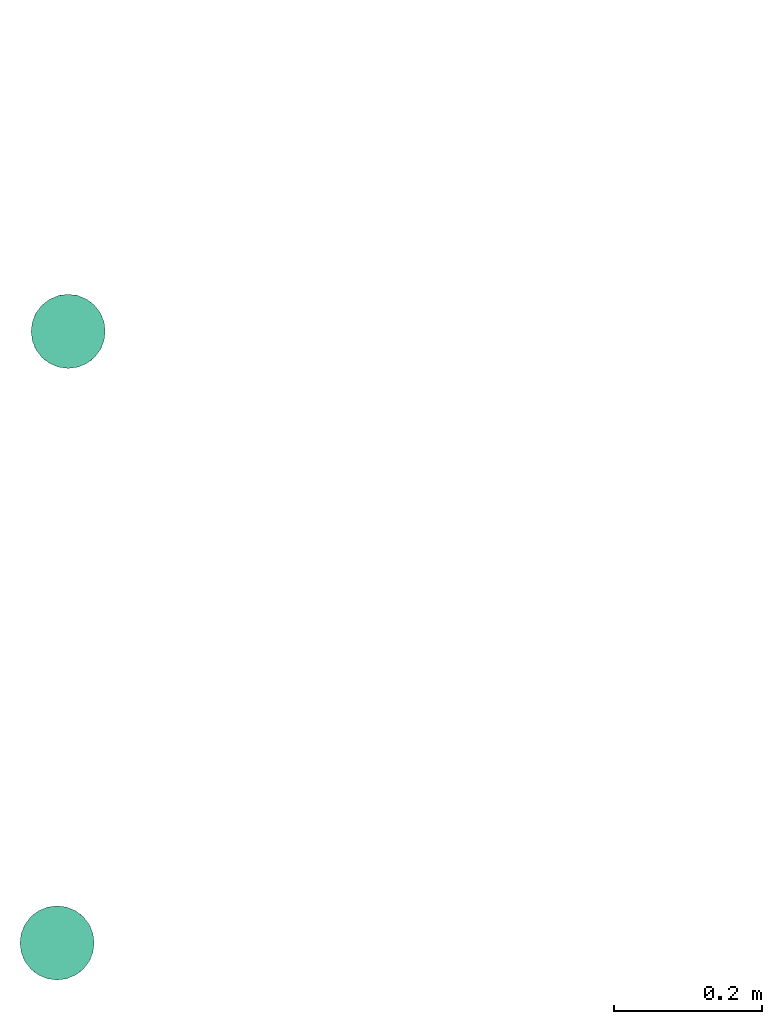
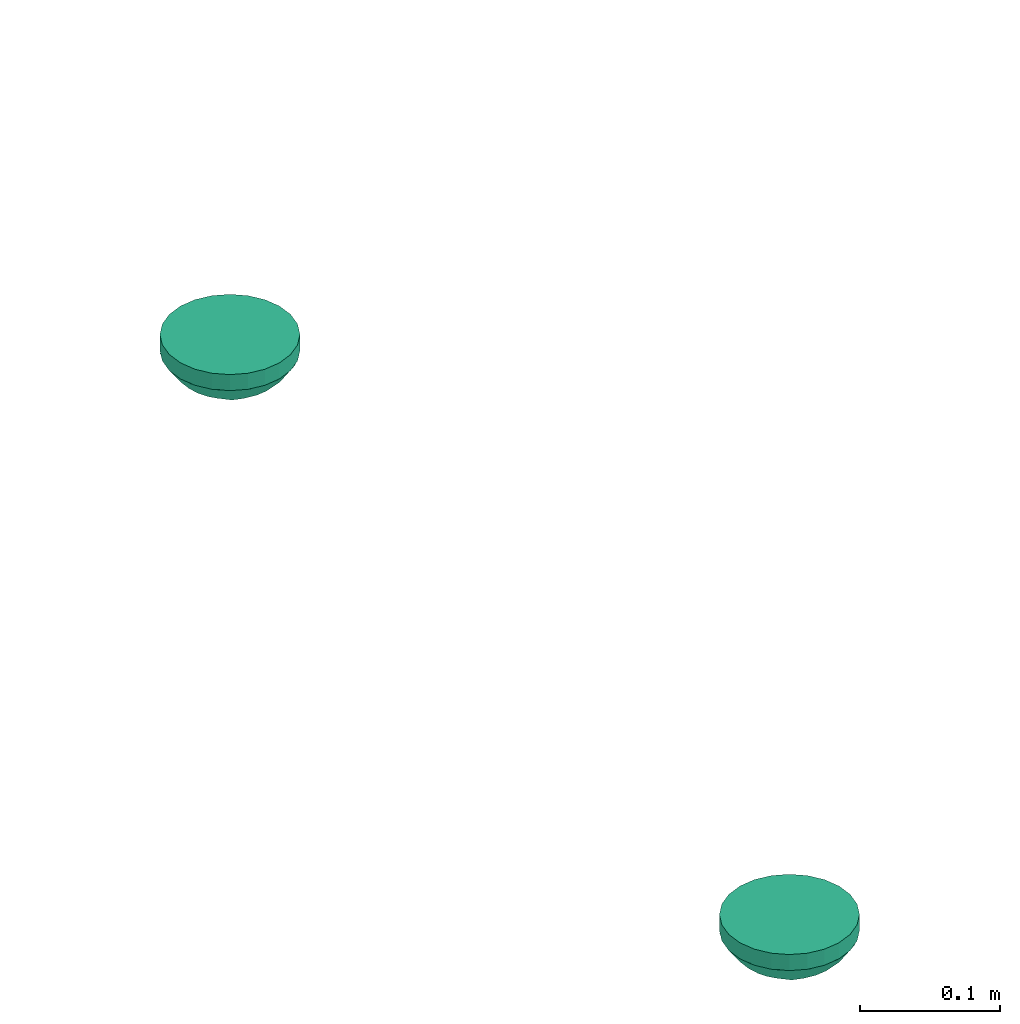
# One storey, part 1 of 7: 2 distribution control elements.
"""IFC2X3 building model written with IfcOpenShell, lengths in millimetres."""

from ifc_helpers import new_model, entity, si_unit, converted_unit, derived_unit, direction, frame, origin_with_axes, place, context, subcontext, project, spatial, open_shell, surface_model, source, transform, mapped, type_object, element, save


model = new_model("IFC2X3")

# Units and contexts
model_context = context("Model", 3, precision=0.01, world=frame((0.0, 4.29681676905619e-09, 0.0)), true_north=direction((4.01073788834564e-13, 1.0)))
plan_context = context("Plan", 3, precision=0.01, world=frame((0.0, 4.29681676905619e-09, 0.0)), true_north=direction((4.01073788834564e-13, 1.0)))
body_context = subcontext(model_context, "Body", "Model", "MODEL_VIEW")
ifc_project = project(units=[converted_unit("PLANEANGLEUNIT", "DEGREE", entity("IfcPositiveLengthMeasure", 0.0174532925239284), si_unit("PLANEANGLEUNIT", "RADIAN"), dimensions=[0, 0, 0, 0, 0, 0, 0]), si_unit("AREAUNIT", "SQUARE_METRE"), si_unit("LENGTHUNIT", "METRE", prefix="MILLI"), si_unit("MASSUNIT", "GRAM", prefix="KILO"), si_unit("POWERUNIT", "WATT"), si_unit("PRESSUREUNIT", "PASCAL"), si_unit("FORCEUNIT", "NEWTON", prefix="KILO"), si_unit("ELECTRICVOLTAGEUNIT", "VOLT"), si_unit("ELECTRICCURRENTUNIT", "AMPERE"), si_unit("THERMODYNAMICTEMPERATUREUNIT", "DEGREE_CELSIUS"), si_unit("TIMEUNIT", "SECOND"), si_unit("VOLUMEUNIT", "CUBIC_METRE"), derived_unit("LINEARVELOCITYUNIT", [(si_unit("LENGTHUNIT", "METRE"), 1), (si_unit("TIMEUNIT", "SECOND"), -1)]), derived_unit("VOLUMETRICFLOWRATEUNIT", [(si_unit("VOLUMEUNIT", "CUBIC_METRE"), 1), (si_unit("TIMEUNIT", "SECOND"), -1)]), derived_unit("THERMALTRANSMITTANCEUNIT", [(si_unit("POWERUNIT", "WATT"), 1), (si_unit("THERMODYNAMICTEMPERATUREUNIT", "KELVIN"), -1), (si_unit("AREAUNIT", "SQUARE_METRE"), -1)]), derived_unit("SOUNDPRESSUREUNIT", [(si_unit("PRESSUREUNIT", "PASCAL"), 1)])], contexts=[model_context, plan_context])

# Site, building, storey
site_placement = place(None, frame((0.0, -4.29681676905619e-09, 0.0), z_axis=(0.0, 0.0, 1.0), x_axis=(1.0, 0.0, 0.0)))
site = spatial("IfcSite", under=ifc_project, at=site_placement, Name="ENGM", CompositionType="ELEMENT")
building_placement = place(site_placement, frame((0.0, 4.29681676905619e-09, 0.0), z_axis=(0.0, 0.0, 1.0), x_axis=(1.0, 0.0, 0.0)))
building = spatial("IfcBuilding", under=site, at=building_placement, Name="TH", CompositionType="ELEMENT")
storey_placement = place(building_placement, frame((0.0, 0.0, 210900.0), z_axis=(0.0, 0.0, 1.0), x_axis=(1.0, 0.0, 0.0)))
storey = spatial("IfcBuildingStorey", under=building, at=storey_placement, Name="Nivå F", CompositionType="ELEMENT", Elevation=210900.0)

# Distribution control elements
alarm_type = type_object("IfcAlarmType", Name="Brann Spjeld", PredefinedType="NOTDEFINED")
shared_shape = source(origin_with_axes(), body_context, "Body", "SurfaceModel", [
    surface_model("IfcShellBasedSurfaceModel", [(12.94095, -48.29629, 0.0), (25.0, -43.30127, 0.0), (35.35534, -35.35534, 0.0), (48.29629, -12.94095, 0.0), (-48.29629, -12.94095, 0.0), (43.30127, -25.0, 0.0), (-43.30127, 25.0, 0.0), (0.0, -50.0, 0.0), (-25.0, -43.30127, 0.0), (-12.94095, -48.29629, 0.0), (-35.35534, -35.35534, 0.0), (-43.30127, -25.0, 0.0), (50.0, 0.0, 0.0), (48.29629, 12.94095, 0.0), (43.30127, 25.0, 0.0), (35.35534, 35.35534, 0.0), (25.0, 43.30127, 0.0), (12.94095, 48.29629, 0.0), (0.0, 50.0, 0.0), (-50.0, 0.0, 0.0), (-48.29629, 12.94095, 0.0), (-25.0, 43.30127, 0.0), (-35.35534, 35.35534, 0.0), (-12.94095, 48.29629, 0.0), (4.29412, 0.0, -38.62353), (2.50388, 0.0, -40.50647), (0.0, -3.12742, -40.06209), (0.0, 0.0, -41.2), (0.0, -1.66262, -40.90719), (-4.29412, 0.0, -38.62353), (-2.50388, 0.0, -40.50647), (0.0, -4.29412, -38.62353), (0.0, 2.96742, -40.19065), (0.0, 1.56571, -40.94126), (0.0, 4.29412, -38.62353), (3.2679, 0.0, -39.70289), (2.5, -2.5, -39.0), (5.0, 0.0, -39.0), (2.14706, -2.14706, -38.62353), (0.0, -5.0, -39.0), (-1.52665, -2.76747, -38.62353), (-2.5, -2.5, -39.0), (-5.0, 0.0, -39.0), (-2.5, 2.5, -39.0), (-2.14706, 2.14706, -38.62353), (0.0, 5.0, -39.0), (1.52665, 2.76747, -38.62353), (2.5, 2.5, -39.0), (2.91548, 0.0, -41.19246), (0.0, 0.0, -42.0), (-2.91548, 0.0, -41.19246), (1.2938, 0.0, -41.64164), (19.93598, -14.48434, -38.28446), (21.41907, -11.02097, -39.0), (20.22543, -14.69463, -39.0), (-13.97542, -19.23552, -39.0), (-16.8557, -16.72229, -38.28446), (-13.77543, -18.96025, -38.28446), (-10.69515, -21.1982, -38.28446), (-10.85042, -21.50597, -39.0), (13.97542, -19.23552, -39.0), (13.77543, -18.96025, -38.28446), (17.10042, -16.96508, -39.0), (10.85042, -21.50597, -39.0), (7.61487, -23.43615, -38.28446), (10.69515, -21.1982, -38.28446), (21.36126, -10.09777, -38.28446), (24.64223, 0.0, -38.28446), (23.80636, -3.67366, -39.0), (23.00175, -5.04889, -38.28446), (0.0, -23.77641, -39.0), (0.0, -23.43615, -38.28446), (3.86271, -23.77641, -39.0), (-7.61487, -23.43615, -38.28446), (-7.72542, -23.77641, -39.0), (3.80743, -23.43615, -38.28446), (-3.80743, -23.43615, -38.28446), (25.0, 0.0, -39.0), (-17.10042, -16.96508, -39.0), (-19.93598, -14.48434, -38.28446), (-21.11254, -10.86325, -38.28446), (-20.22543, -14.69463, -39.0), (-21.41907, -11.02097, -39.0), (16.8557, -16.72229, -38.28446), (-3.86271, -23.77641, -39.0), (7.72542, -23.77641, -39.0), (22.61271, -7.34732, -39.0), (-22.28911, -7.24217, -38.28446), (-22.61271, -7.34732, -39.0), (-25.0, 0.0, -39.0), (-23.46567, -3.62108, -38.28446), (-23.3357, -5.12219, -39.0), (-24.64223, 0.0, -38.28446), (-19.93598, 14.48434, -38.28446), (-21.41907, 11.02097, -39.0), (-20.22543, 14.69463, -39.0), (13.97542, 19.23552, -39.0), (16.8557, 16.72229, -38.28446), (13.77543, 18.96025, -38.28446), (10.69515, 21.1982, -38.28446), (10.85042, 21.50597, -39.0), (-13.97542, 19.23552, -39.0), (-13.77543, 18.96025, -38.28446), (-17.10042, 16.96508, -39.0), (-10.85042, 21.50597, -39.0), (-7.61487, 23.43615, -38.28446), (-10.69515, 21.1982, -38.28446), (-21.36126, 10.09777, -38.28446), (-23.80636, 3.67366, -39.0), (-23.00175, 5.04889, -38.28446), (0.0, 23.77641, -39.0), (0.0, 23.43615, -38.28446), (-3.86271, 23.77641, -39.0), (7.61487, 23.43615, -38.28446), (7.72542, 23.77641, -39.0), (-3.80743, 23.43615, -38.28446), (3.80743, 23.43615, -38.28446), (17.10042, 16.96508, -39.0), (19.93598, 14.48434, -38.28446), (21.11254, 10.86325, -38.28446), (20.22543, 14.69463, -39.0), (21.41907, 11.02097, -39.0), (-16.8557, 16.72229, -38.28446), (3.86271, 23.77641, -39.0), (-7.72542, 23.77641, -39.0), (-22.61271, 7.34732, -39.0), (22.28911, 7.24217, -38.28446), (22.61271, 7.34732, -39.0), (23.46567, 3.62108, -38.28446), (23.3357, 5.12219, -39.0), (-15.27913, -29.49615, -32.96274), (-26.60609, -27.65947, -28.53817), (-18.35659, -38.11785, -24.30244), (21.43495, -9.87098, -38.28446), (30.92884, -21.92736, -28.98493), (34.50589, -15.7498, -28.96855), (-30.92884, -21.92736, -28.98493), (-21.43495, -9.87098, -38.28446), (-34.50589, -15.7498, -28.96855), (-4.94671, -43.90327, -21.92765), (-9.13054, -35.93076, -29.76531), (18.35659, -38.11785, -24.30244), (10.96682, -48.04879, -13.64223), (20.84759, -43.29047, -13.64223), (37.21557, -23.51558, -22.13935), (44.40376, -21.38373, -13.64223), (41.91934, -14.75465, -21.57708), (15.03129, -29.50055, -33.04515), (37.74076, -8.21862, -28.29741), (22.93392, -5.25762, -38.28446), (30.72836, -38.53214, -13.64223), (31.78886, -31.78886, -20.86117), (-38.96278, 0.0, -27.96278), (-37.74076, -8.21862, -28.29741), (9.12374, -36.1193, -29.59989), (5.79747, -43.42909, -22.41409), (46.80418, -10.86681, -13.64223), (-37.21557, -23.51558, -22.13935), (42.54052, 0.0, -22.99894), (-31.78886, -31.78886, -20.86117), (-37.56606, -29.95793, -13.64223), (-41.91934, -14.75465, -21.57708), (-42.54053, 0.0, -22.99894), (-30.72836, -38.53214, -13.64223), (-20.84759, -43.29047, -13.64223), (-22.93392, -5.25762, -38.28446), (-44.40376, -21.38373, -13.64223), (-46.80418, -10.86681, -13.64223), (26.60609, -27.65947, -28.53817), (0.0, -48.04879, -13.64223), (0.0, -37.69976, -29.18613), (38.96278, 0.0, -27.96278), (37.56606, -29.95793, -13.64223), (49.28446, 0.0, -13.64223), (-49.28446, 0.0, -13.64223), (-10.96682, -48.04879, -13.64223), (15.27913, 29.49615, -32.96274), (26.60609, 27.65948, -28.53817), (18.35659, 38.11785, -24.30244), (-21.43495, 9.87098, -38.28446), (-30.92885, 21.92736, -28.98493), (-34.50589, 15.7498, -28.96855), (30.92884, 21.92736, -28.98493), (21.43495, 9.87098, -38.28446), (34.50589, 15.7498, -28.96855), (0.0, 37.69976, -29.18613), (9.13054, 35.93076, -29.76531), (-37.74076, 8.21862, -28.29741), (-41.91934, 14.75465, -21.57708), (-37.21557, 23.51558, -22.13935), (-44.40376, 21.38373, -13.64223), (-26.60609, 27.65947, -28.53817), (-31.78886, 31.78886, -20.86117), (-18.35659, 38.11785, -24.30243), (-30.72836, 38.53214, -13.64223), (-22.93392, 5.25762, -38.28446), (4.94671, 43.90327, -21.92765), (-46.80418, 10.86681, -13.64223), (37.21557, 23.51558, -22.13935), (-10.96682, 48.04879, -13.64223), (-20.84759, 43.29047, -13.64223), (31.78886, 31.78886, -20.86117), (37.56606, 29.95793, -13.64223), (41.91934, 14.75465, -21.57708), (37.74076, 8.21862, -28.29741), (30.72836, 38.53214, -13.64223), (20.84759, 43.29047, -13.64223), (-5.79747, 43.42908, -22.41409), (-9.12374, 36.1193, -29.59989), (22.93392, 5.25762, -38.28446), (44.40376, 21.38373, -13.64223), (46.80418, 10.86681, -13.64223), (-15.03129, 29.50055, -33.04515), (0.0, 48.04879, -13.64223), (-37.56606, 29.95793, -13.64223), (10.96682, 48.04879, -13.64223), (46.58271, -14.97212, -14.0), (46.84411, -10.69186, -13.64223), (45.62394, -16.03779, -13.64223), (-26.16238, -41.50528, -14.0), (-21.15027, -43.91899, -14.0), (38.11147, -30.39288, -14.0), (34.64298, -34.74223, -14.0), (11.12605, -48.7464, -14.0), (5.56302, -48.7464, -14.0), (-16.13816, -46.33269, -14.0), (-15.90721, -45.66963, -13.64223), (21.15027, -43.91899, -14.0), (25.78797, -40.91131, -13.64223), (49.14568, -3.74303, -14.0), (48.06429, -5.34593, -13.64223), (48.29136, -7.48606, -14.0), (34.14721, -34.24504, -13.64223), (31.17449, -39.09157, -14.0), (41.57996, -26.04353, -14.0), (40.98491, -25.67083, -13.64223), (15.90721, -45.66963, -13.64223), (16.13816, -46.33269, -14.0), (45.81558, -18.33315, -14.0), (0.0, -48.7464, -14.0), (5.48341, -48.04879, -13.64223), (-11.12605, -48.7464, -14.0), (-5.56302, -48.7464, -14.0), (-38.11147, -30.39288, -14.0), (-41.57996, -26.04353, -14.0), (26.16238, -41.50528, -14.0), (-45.91607, -14.75786, -13.64223), (-47.52422, -10.84709, -14.0), (-46.28633, -16.27064, -14.0), (-25.78797, -40.91131, -13.64223), (-31.17449, -39.09157, -14.0), (-34.64298, -34.74223, -14.0), (-34.14721, -34.24504, -13.64223), (-47.60026, -7.37893, -13.64223), (-48.76211, -5.42355, -14.0), (-5.48341, -48.04879, -13.64223), (47.43703, -11.22909, -14.0), (-40.98491, -25.67083, -13.64223), (-45.04844, -21.69419, -14.0), (-45.15992, -18.07079, -13.64223), (-48.44236, -3.68946, -13.64223), (-50.0, 0.0, -14.0), (-46.75817, -11.06839, -13.64223), (45.04844, -21.69419, -14.0), (50.0, 0.0, -14.0), (-46.58271, 14.97212, -14.0), (-46.84411, 10.69186, -13.64223), (-45.62394, 16.03779, -13.64223), (26.16238, 41.50528, -14.0), (21.15027, 43.91899, -14.0), (-38.11147, 30.39288, -14.0), (-34.64298, 34.74223, -14.0), (-11.12605, 48.7464, -14.0), (-5.56302, 48.7464, -14.0), (16.13816, 46.33269, -14.0), (15.90721, 45.66963, -13.64223), (-21.15027, 43.91899, -14.0), (-25.78797, 40.91131, -13.64223), (-49.14568, 3.74303, -14.0), (-48.06429, 5.34593, -13.64223), (-48.29136, 7.48606, -14.0), (-34.14721, 34.24504, -13.64223), (-31.17449, 39.09157, -14.0), (-41.57996, 26.04353, -14.0), (-40.98491, 25.67083, -13.64223), (-15.90721, 45.66963, -13.64223), (-16.13816, 46.33269, -14.0), (-45.81558, 18.33315, -14.0), (0.0, 48.7464, -14.0), (-5.48341, 48.04879, -13.64223), (11.12605, 48.7464, -14.0), (5.56302, 48.7464, -14.0), (38.11147, 30.39288, -14.0), (41.57996, 26.04353, -14.0), (-26.16238, 41.50528, -14.0), (45.91607, 14.75786, -13.64223), (47.52422, 10.84709, -14.0), (46.28633, 16.27064, -14.0), (25.78797, 40.91131, -13.64223), (31.17449, 39.09157, -14.0), (34.64298, 34.74223, -14.0), (34.14721, 34.24504, -13.64223), (47.60026, 7.37893, -13.64223), (48.76211, 5.42355, -14.0), (5.48341, 48.04879, -13.64223), (-47.43703, 11.22909, -14.0), (40.98491, 25.67083, -13.64223), (45.04844, 21.69419, -14.0), (45.15992, 18.07079, -13.64223), (48.44236, 3.68946, -13.64223), (46.75817, 11.06839, -13.64223), (-45.04844, 21.69419, -14.0), (42.52795, -14.96887, -22.05005), (47.48371, -11.02458, -14.0), (15.24952, -29.92886, -33.68462), (26.99238, -28.06105, -29.11221), (18.62311, -38.67127, -24.81498), (37.75588, -23.85699, -22.62049), (21.74616, -10.01429, -39.0), (31.37789, -22.24572, -29.56546), (9.25621, -36.6437, -30.18934), (32.25039, -32.25039, -21.32375), (38.28871, -8.33795, -28.86795), (43.15815, 0.0, -23.49255), (-18.6231, -38.67127, -24.81498), (-9.26311, -36.45243, -30.35717), (-23.26689, -5.33396, -39.0), (-38.28871, -8.33795, -28.86795), (35.00686, -15.97846, -29.54884), (-5.01853, -44.54068, -22.40572), (5.88164, -44.05962, -22.89921), (0.0, -38.24711, -29.76958), (-32.25039, -32.25039, -21.32375), (39.52847, 0.0, -28.52847), (-42.52795, -14.96887, -22.05005), (-35.00686, -15.97846, -29.54884), (-37.75588, -23.85699, -22.62049), (-15.50096, -29.92439, -33.60102), (23.26689, -5.33396, -39.0), (-21.74616, -10.01429, -39.0), (-31.37789, -22.24572, -29.56546), (-43.15815, 0.0, -23.49255), (-26.99237, -28.06105, -29.11221), (-47.48371, -11.02458, -14.0), (-39.52847, 0.0, -28.52847), (-42.52795, 14.96887, -22.05005), (-47.48371, 11.02458, -14.0), (-32.25039, 32.25039, -21.32375), (-37.75588, 23.85699, -22.62049), (-26.99238, 28.06105, -29.11221), (-18.62311, 38.67127, -24.81498), (-35.00687, 15.97846, -29.54884), (-23.26689, 5.33396, -39.0), (-38.28871, 8.33795, -28.86795), (18.6231, 38.67127, -24.81498), (5.01853, 44.54068, -22.40572), (9.26311, 36.45243, -30.35717), (23.26689, 5.33396, -39.0), (38.28871, 8.33795, -28.86795), (-31.37789, 22.24572, -29.56546), (-5.88164, 44.05961, -22.89922), (0.0, 38.24711, -29.76958), (32.25039, 32.25039, -21.32375), (-9.2562, 36.6437, -30.18934), (42.52795, 14.96887, -22.05005), (35.00686, 15.97846, -29.54884), (37.75588, 23.85699, -22.62049), (15.50096, 29.92439, -33.60102), (-15.24952, 29.92886, -33.68462), (21.74616, 10.01429, -39.0), (31.37789, 22.24572, -29.56546), (26.99237, 28.06105, -29.11221), (-21.74616, 10.01429, -39.0), (47.48371, 11.02458, -14.0), (6.47048, -24.14815, -38.9), (12.5, -21.65064, -38.9), (17.67767, -17.67767, -38.9), (24.14815, -6.47048, -38.9), (-24.14815, -6.47048, -38.9), (21.65064, -12.5, -38.9), (-21.65064, 12.5, -38.9), (0.0, -25.0, -38.9), (-12.5, -21.65064, -38.9), (-6.47048, -24.14815, -38.9), (-17.67767, -17.67767, -38.9), (-21.65064, -12.5, -38.9), (25.0, 0.0, -38.9), (24.14815, 6.47048, -38.9), (21.65064, 12.5, -38.9), (17.67767, 17.67767, -38.9), (12.5, 21.65064, -38.9), (6.47048, 24.14815, -38.9), (0.0, 25.0, -38.9), (-25.0, 0.0, -38.9), (-24.14815, 6.47048, -38.9), (-12.5, 21.65064, -38.9), (-17.67767, 17.67767, -38.9), (-6.47048, 24.14815, -38.9), (0.0, 25.0, -39.1), (6.47048, 24.14815, -39.1), (12.5, 21.65064, -39.1), (-21.65064, 12.5, -39.1), (17.67767, 17.67767, -39.1), (21.65064, 12.5, -39.1), (24.14815, 6.47048, -39.1), (-12.5, 21.65064, -39.1), (-17.67767, 17.67767, -39.1), (-6.47048, 24.14815, -39.1), (-25.0, 0.0, -39.1), (-24.14815, 6.47048, -39.1), (-24.14815, -6.47048, -39.1), (24.14815, -6.47048, -39.1), (6.47048, -24.14815, -39.1), (21.65064, -12.5, -39.1), (17.67767, -17.67767, -39.1), (12.5, -21.65064, -39.1), (-12.5, -21.65064, -39.1), (-17.67767, -17.67767, -39.1), (-21.65064, -12.5, -39.1), (0.0, -25.0, -39.1), (-6.47048, -24.14815, -39.1), (25.0, 0.0, -39.1), (0.0, 50.0, -14.0), (12.94095, 48.29629, -14.0), (25.0, 43.30127, -14.0), (-43.30127, 25.0, -14.0), (35.35534, 35.35534, -14.0), (43.30127, 25.0, -14.0), (48.29629, 12.94095, -14.0), (-25.0, 43.30127, -14.0), (-35.35534, 35.35534, -14.0), (-12.94095, 48.29629, -14.0), (-48.29629, 12.94095, -14.0), (-48.29629, -12.94095, -14.0), (48.29629, -12.94095, -14.0), (12.94095, -48.29629, -14.0), (43.30127, -25.0, -14.0), (35.35534, -35.35534, -14.0), (25.0, -43.30127, -14.0), (-25.0, -43.30127, -14.0), (-35.35534, -35.35534, -14.0), (-43.30127, -25.0, -14.0), (0.0, -50.0, -14.0), (-12.94095, -48.29629, -14.0), (3.33779, -2.37443, -0.30686), (3.33779, -0.6901, -0.30686), (1.99033, -2.37443, -0.30686), (1.99033, -0.6901, -0.30686), (1.99033, -2.37443, -1.09375), (1.99033, -0.6901, -1.09375), (3.33779, -2.37443, -1.09375), (3.33779, -0.6901, -1.09375)], [open_shell([[[0, 1, 2]], [[0, 2, 3]], [[0, 3, 4]], [[3, 2, 5]], [[6, 4, 3]], [[7, 8, 9]], [[7, 0, 8]], [[10, 4, 11]], [[10, 8, 0]], [[4, 10, 0]], [[3, 12, 6]], [[13, 14, 15]], [[13, 15, 16]], [[16, 17, 18]], [[13, 16, 6]], [[6, 16, 18]], [[19, 6, 20]], [[4, 6, 19]], [[6, 21, 22]], [[21, 6, 23]], [[18, 23, 6]], [[6, 12, 13]], [[24, 25, 26]], [[25, 27, 28]], [[29, 26, 30]], [[27, 30, 28]], [[25, 28, 26]], [[31, 24, 26]], [[29, 31, 26]], [[28, 30, 26]], [[29, 30, 32]], [[33, 30, 27]], [[33, 25, 32]], [[25, 33, 27]], [[34, 32, 35]], [[34, 29, 32]], [[25, 35, 32]], [[35, 24, 34]], [[33, 32, 30]], [[24, 36, 37]], [[38, 39, 36]], [[39, 38, 31]], [[39, 40, 41]], [[29, 42, 41]], [[40, 39, 31]], [[29, 41, 40]], [[24, 38, 36]], [[29, 43, 42]], [[44, 45, 43]], [[45, 44, 34]], [[45, 46, 47]], [[24, 37, 47]], [[46, 45, 34]], [[24, 47, 46]], [[29, 44, 43]], [[39, 48, 37]], [[49, 48, 50]], [[42, 50, 39]], [[50, 48, 39]], [[45, 50, 42]], [[37, 48, 45]], [[48, 51, 50]], [[51, 49, 50]], [[48, 50, 45]], [[52, 53, 54]], [[55, 56, 57]], [[57, 58, 59]], [[60, 61, 62]], [[63, 64, 65]], [[52, 66, 53]], [[67, 68, 69]], [[70, 71, 72]], [[73, 74, 58]], [[55, 57, 59]], [[75, 72, 71]], [[70, 76, 71]], [[68, 67, 77]], [[78, 79, 56]], [[80, 81, 82]], [[60, 65, 61]], [[61, 83, 62]], [[52, 54, 83]], [[84, 73, 76]], [[64, 85, 75]], [[66, 86, 53]], [[87, 82, 88]], [[89, 90, 91]], [[91, 87, 88]], [[86, 66, 69]], [[65, 60, 63]], [[63, 85, 64]], [[76, 70, 84]], [[84, 74, 73]], [[56, 55, 78]], [[78, 81, 79]], [[82, 87, 80]], [[80, 79, 81]], [[83, 54, 62]], [[75, 85, 72]], [[58, 74, 59]], [[90, 89, 92]], [[90, 87, 91]], [[68, 86, 69]], [[93, 94, 95]], [[96, 97, 98]], [[98, 99, 100]], [[101, 102, 103]], [[104, 105, 106]], [[93, 107, 94]], [[92, 108, 109]], [[110, 111, 112]], [[113, 114, 99]], [[96, 98, 100]], [[115, 112, 111]], [[110, 116, 111]], [[108, 92, 89]], [[117, 118, 97]], [[119, 120, 121]], [[101, 106, 102]], [[102, 122, 103]], [[93, 95, 122]], [[123, 113, 116]], [[105, 124, 115]], [[107, 125, 94]], [[126, 121, 127]], [[77, 128, 129]], [[129, 126, 127]], [[125, 107, 109]], [[106, 101, 104]], [[104, 124, 105]], [[116, 110, 123]], [[123, 114, 113]], [[97, 96, 117]], [[117, 120, 118]], [[121, 126, 119]], [[119, 118, 120]], [[122, 95, 103]], [[115, 124, 112]], [[99, 114, 100]], [[128, 77, 67]], [[128, 126, 129]], [[108, 125, 109]], [[130, 131, 132]], [[133, 134, 135]], [[136, 137, 138]], [[139, 140, 132]], [[141, 142, 143]], [[144, 145, 146]], [[147, 61, 64]], [[146, 148, 135]], [[67, 149, 148]], [[135, 144, 146]], [[141, 150, 151]], [[92, 152, 153]], [[154, 155, 141]], [[156, 146, 145]], [[136, 138, 157]], [[148, 146, 158]], [[159, 157, 160]], [[161, 153, 162]], [[132, 163, 164]], [[154, 64, 71]], [[79, 137, 136]], [[159, 132, 131]], [[165, 92, 153]], [[166, 160, 157]], [[166, 161, 167]], [[168, 151, 134]], [[141, 147, 154]], [[155, 169, 142]], [[139, 155, 170]], [[168, 61, 147]], [[168, 52, 61]], [[132, 140, 130]], [[57, 79, 131]], [[171, 148, 158]], [[145, 144, 172]], [[151, 150, 172]], [[134, 144, 135]], [[144, 134, 151]], [[156, 173, 158]], [[148, 171, 67]], [[158, 146, 156]], [[144, 151, 172]], [[141, 151, 168]], [[135, 149, 133]], [[52, 168, 134]], [[162, 167, 161]], [[161, 157, 138]], [[153, 161, 138]], [[159, 160, 163]], [[157, 161, 166]], [[157, 159, 136]], [[153, 138, 165]], [[152, 162, 153]], [[167, 162, 174]], [[132, 159, 163]], [[159, 131, 136]], [[131, 79, 136]], [[137, 165, 138]], [[71, 73, 140]], [[168, 147, 141]], [[64, 154, 147]], [[155, 154, 170]], [[169, 155, 139]], [[141, 155, 142]], [[169, 139, 175]], [[140, 139, 170]], [[132, 175, 139]], [[140, 170, 71]], [[130, 73, 57]], [[73, 130, 140]], [[131, 130, 57]], [[154, 71, 170]], [[149, 135, 148]], [[52, 134, 133]], [[150, 141, 143]], [[175, 132, 164]], [[176, 177, 178]], [[179, 180, 181]], [[182, 183, 184]], [[185, 111, 186]], [[187, 188, 162]], [[189, 190, 188]], [[191, 192, 180]], [[188, 187, 181]], [[118, 183, 182]], [[193, 194, 192]], [[188, 181, 189]], [[92, 195, 187]], [[196, 186, 178]], [[197, 188, 190]], [[182, 184, 198]], [[193, 199, 200]], [[201, 198, 202]], [[203, 204, 158]], [[178, 205, 206]], [[207, 193, 208]], [[67, 171, 204]], [[201, 178, 177]], [[209, 67, 204]], [[210, 202, 198]], [[210, 203, 211]], [[212, 102, 105]], [[193, 212, 208]], [[207, 213, 199]], [[196, 207, 185]], [[191, 102, 212]], [[191, 93, 102]], [[178, 186, 176]], [[98, 118, 177]], [[152, 187, 162]], [[190, 189, 214]], [[192, 194, 214]], [[180, 189, 181]], [[189, 180, 192]], [[197, 174, 162]], [[187, 152, 92]], [[162, 188, 197]], [[189, 192, 214]], [[193, 192, 191]], [[181, 195, 179]], [[93, 191, 180]], [[158, 211, 203]], [[203, 198, 184]], [[204, 203, 184]], [[201, 202, 205]], [[198, 203, 210]], [[198, 201, 182]], [[204, 184, 209]], [[171, 158, 204]], [[211, 158, 173]], [[178, 201, 205]], [[201, 177, 182]], [[177, 118, 182]], [[183, 209, 184]], [[195, 181, 187]], [[191, 212, 193]], [[105, 208, 212]], [[207, 208, 185]], [[196, 215, 213]], [[193, 207, 199]], [[215, 196, 178]], [[186, 196, 185]], [[207, 196, 213]], [[208, 111, 185]], [[176, 113, 98]], [[113, 176, 186]], [[177, 176, 98]], [[111, 208, 105]], [[113, 186, 111]], [[93, 180, 179]], [[194, 193, 200]], [[215, 178, 206]], [[216, 217, 218]], [[164, 219, 220]], [[221, 172, 222]], [[223, 142, 224]], [[220, 225, 226]], [[143, 227, 228]], [[229, 173, 230]], [[231, 230, 217]], [[232, 233, 222]], [[234, 145, 235]], [[236, 223, 237]], [[145, 238, 218]], [[169, 239, 240]], [[241, 175, 225]], [[164, 220, 226]], [[169, 242, 239]], [[243, 160, 244]], [[143, 237, 227]], [[233, 150, 245]], [[246, 247, 248]], [[221, 235, 172]], [[249, 250, 219]], [[150, 233, 232]], [[251, 163, 252]], [[253, 254, 247]], [[232, 222, 172]], [[227, 245, 228]], [[255, 241, 242]], [[224, 240, 239]], [[217, 216, 256]], [[243, 252, 160]], [[257, 244, 160]], [[166, 258, 257]], [[258, 259, 248]], [[260, 261, 254]], [[247, 246, 262]], [[235, 221, 234]], [[234, 263, 145]], [[237, 143, 236]], [[236, 142, 223]], [[242, 169, 255]], [[255, 175, 241]], [[219, 164, 249]], [[249, 163, 250]], [[252, 243, 251]], [[251, 250, 163]], [[230, 231, 229]], [[229, 264, 173]], [[254, 253, 260]], [[260, 174, 261]], [[238, 145, 263]], [[238, 216, 218]], [[256, 231, 217]], [[245, 150, 228]], [[224, 142, 240]], [[225, 175, 226]], [[257, 258, 244]], [[259, 258, 166]], [[259, 246, 248]], [[262, 253, 247]], [[265, 266, 267]], [[206, 268, 269]], [[270, 214, 271]], [[272, 199, 273]], [[269, 274, 275]], [[200, 276, 277]], [[278, 174, 279]], [[280, 279, 266]], [[281, 282, 271]], [[283, 190, 284]], [[285, 272, 286]], [[190, 287, 267]], [[213, 288, 289]], [[290, 215, 274]], [[206, 269, 275]], [[213, 291, 288]], [[292, 202, 293]], [[200, 286, 276]], [[282, 194, 294]], [[295, 296, 297]], [[270, 284, 214]], [[298, 299, 268]], [[194, 282, 281]], [[300, 205, 301]], [[302, 303, 296]], [[281, 271, 214]], [[276, 294, 277]], [[304, 290, 291]], [[273, 289, 288]], [[266, 265, 305]], [[292, 301, 202]], [[306, 293, 202]], [[210, 307, 306]], [[307, 308, 297]], [[309, 264, 303]], [[296, 295, 310]], [[284, 270, 283]], [[283, 311, 190]], [[286, 200, 285]], [[285, 199, 272]], [[291, 213, 304]], [[304, 215, 290]], [[268, 206, 298]], [[298, 205, 299]], [[301, 292, 300]], [[300, 299, 205]], [[279, 280, 278]], [[278, 261, 174]], [[303, 302, 309]], [[309, 173, 264]], [[287, 190, 311]], [[287, 265, 267]], [[305, 280, 266]], [[294, 194, 277]], [[273, 199, 289]], [[274, 215, 275]], [[306, 307, 293]], [[308, 307, 210]], [[308, 295, 297]], [[310, 302, 296]], [[263, 312, 313]], [[314, 315, 316]], [[317, 263, 221]], [[54, 318, 319]], [[85, 314, 320]], [[321, 316, 315]], [[312, 322, 323]], [[324, 241, 220]], [[325, 74, 70]], [[89, 326, 327]], [[319, 328, 317]], [[316, 233, 227]], [[329, 330, 239]], [[329, 325, 331]], [[332, 324, 250]], [[77, 333, 322]], [[334, 335, 336]], [[74, 325, 337]], [[321, 317, 221]], [[334, 327, 335]], [[338, 77, 322]], [[334, 336, 258]], [[339, 340, 335]], [[327, 334, 341]], [[342, 332, 340]], [[342, 81, 55]], [[329, 331, 330]], [[342, 55, 337]], [[320, 330, 331]], [[60, 314, 85]], [[60, 54, 315]], [[323, 313, 312]], [[312, 317, 328]], [[322, 312, 328]], [[321, 221, 233]], [[317, 312, 263]], [[317, 321, 319]], [[322, 328, 338]], [[333, 323, 322]], [[313, 323, 264]], [[316, 321, 233]], [[321, 315, 319]], [[315, 54, 319]], [[318, 338, 328]], [[343, 334, 258]], [[344, 327, 341]], [[258, 336, 243]], [[332, 250, 243]], [[340, 336, 335]], [[336, 340, 332]], [[343, 261, 341]], [[327, 344, 89]], [[341, 334, 343]], [[336, 332, 243]], [[324, 332, 342]], [[335, 326, 339]], [[81, 342, 340]], [[315, 314, 60]], [[320, 314, 316]], [[330, 316, 223]], [[331, 70, 320]], [[316, 330, 320]], [[241, 329, 239]], [[330, 223, 239]], [[241, 324, 329]], [[325, 329, 324]], [[337, 325, 324]], [[85, 320, 70]], [[342, 337, 324]], [[74, 337, 55]], [[325, 70, 331]], [[319, 318, 328]], [[326, 335, 327]], [[81, 340, 339]], [[223, 316, 227]], [[250, 324, 220]], [[311, 345, 346]], [[347, 348, 270]], [[349, 347, 350]], [[351, 352, 353]], [[89, 344, 353]], [[270, 348, 311]], [[345, 353, 341]], [[354, 290, 269]], [[355, 354, 356]], [[77, 357, 358]], [[359, 351, 348]], [[352, 89, 353]], [[355, 360, 288]], [[355, 356, 361]], [[362, 354, 299]], [[361, 110, 363]], [[364, 365, 366]], [[114, 356, 367]], [[368, 349, 350]], [[364, 358, 365]], [[350, 282, 276]], [[364, 366, 307]], [[358, 357, 365]], [[358, 364, 323]], [[369, 120, 370]], [[371, 362, 370]], [[371, 120, 96]], [[363, 124, 368]], [[371, 96, 367]], [[363, 360, 361]], [[101, 368, 124]], [[101, 95, 349]], [[341, 346, 345]], [[345, 348, 351]], [[353, 345, 351]], [[347, 270, 282]], [[348, 345, 311]], [[348, 347, 359]], [[359, 372, 351]], [[344, 341, 353]], [[346, 341, 261]], [[350, 347, 282]], [[347, 349, 359]], [[349, 95, 359]], [[365, 357, 369]], [[373, 364, 307]], [[333, 358, 323]], [[307, 366, 292]], [[362, 299, 292]], [[370, 366, 365]], [[366, 370, 362]], [[373, 264, 323]], [[358, 333, 77]], [[323, 364, 373]], [[366, 362, 292]], [[354, 362, 371]], [[370, 365, 369]], [[120, 371, 370]], [[349, 368, 101]], [[363, 368, 350]], [[360, 350, 272]], [[356, 110, 361]], [[350, 360, 363]], [[288, 290, 355]], [[360, 272, 288]], [[354, 355, 290]], [[360, 355, 361]], [[367, 356, 354]], [[372, 359, 95]], [[371, 367, 354]], [[114, 367, 96]], [[110, 356, 114]], [[124, 363, 110]], [[372, 352, 351]], [[272, 350, 276]], [[299, 354, 269]], [[374, 375, 376]], [[374, 376, 377]], [[374, 377, 378]], [[377, 376, 379]], [[380, 378, 377]], [[381, 382, 383]], [[381, 374, 382]], [[384, 378, 385]], [[384, 382, 374]], [[378, 384, 374]], [[377, 386, 380]], [[387, 388, 389]], [[387, 389, 390]], [[390, 391, 392]], [[387, 390, 380]], [[380, 390, 392]], [[393, 380, 394]], [[378, 380, 393]], [[380, 395, 396]], [[395, 380, 397]], [[392, 397, 380]], [[380, 386, 387]], [[398, 399, 400]], [[401, 398, 400]], [[402, 403, 404]], [[402, 404, 400]], [[401, 400, 404]], [[405, 401, 406]], [[401, 405, 407]], [[401, 408, 409]], [[401, 407, 398]], [[401, 410, 408]], [[401, 404, 411]], [[410, 401, 411]], [[412, 411, 413]], [[414, 415, 412]], [[414, 412, 413]], [[416, 411, 412]], [[410, 417, 418]], [[410, 411, 417]], [[416, 419, 420]], [[417, 411, 416]], [[412, 419, 416]], [[411, 404, 421]], [[410, 378, 408]], [[418, 385, 410]], [[382, 417, 416]], [[418, 417, 384]], [[383, 416, 420]], [[410, 385, 378]], [[378, 393, 408]], [[383, 382, 416]], [[384, 417, 382]], [[384, 385, 418]], [[381, 383, 420]], [[420, 419, 381]], [[412, 374, 419]], [[415, 375, 412]], [[379, 414, 413]], [[415, 414, 376]], [[377, 413, 411]], [[415, 376, 375]], [[375, 374, 412]], [[386, 377, 411]], [[379, 413, 377]], [[379, 376, 414]], [[421, 386, 411]], [[419, 374, 381]], [[404, 387, 421]], [[403, 388, 404]], [[390, 402, 400]], [[403, 402, 389]], [[391, 400, 399]], [[404, 388, 387]], [[387, 386, 421]], [[391, 390, 400]], [[389, 402, 390]], [[389, 388, 403]], [[392, 391, 399]], [[399, 398, 392]], [[407, 397, 398]], [[405, 395, 407]], [[380, 406, 401]], [[405, 406, 396]], [[394, 401, 409]], [[405, 396, 395]], [[395, 397, 407]], [[393, 394, 409]], [[380, 401, 394]], [[380, 396, 406]], [[408, 393, 409]], [[398, 397, 392]], [[422, 423, 424]], [[425, 422, 424]], [[426, 427, 428]], [[426, 428, 424]], [[425, 424, 428]], [[429, 425, 430]], [[425, 429, 431]], [[425, 261, 432]], [[425, 431, 422]], [[425, 433, 261]], [[425, 428, 434]], [[433, 425, 434]], [[435, 434, 436]], [[437, 438, 435]], [[437, 435, 436]], [[439, 434, 435]], [[433, 440, 441]], [[433, 434, 440]], [[439, 442, 443]], [[440, 434, 439]], [[435, 442, 439]], [[434, 428, 264]], [[433, 4, 261]], [[441, 11, 433]], [[8, 440, 439]], [[441, 440, 10]], [[9, 439, 443]], [[433, 11, 4]], [[4, 19, 261]], [[9, 8, 439]], [[10, 440, 8]], [[10, 11, 441]], [[7, 9, 443]], [[443, 442, 7]], [[435, 0, 442]], [[438, 1, 435]], [[5, 437, 436]], [[438, 437, 2]], [[3, 436, 434]], [[438, 2, 1]], [[1, 0, 435]], [[12, 3, 434]], [[5, 436, 3]], [[5, 2, 437]], [[264, 12, 434]], [[442, 0, 7]], [[428, 13, 264]], [[427, 14, 428]], [[16, 426, 424]], [[427, 426, 15]], [[17, 424, 423]], [[428, 14, 13]], [[13, 12, 264]], [[17, 16, 424]], [[15, 426, 16]], [[15, 14, 427]], [[18, 17, 423]], [[423, 422, 18]], [[431, 23, 422]], [[429, 21, 431]], [[6, 430, 425]], [[429, 430, 22]], [[20, 425, 432]], [[429, 22, 21]], [[21, 23, 431]], [[19, 20, 432]], [[6, 425, 20]], [[6, 22, 430]], [[261, 19, 432]], [[422, 23, 18]], [[444, 445, 446]], [[447, 446, 445]], [[448, 449, 450]], [[451, 450, 449]], [[447, 445, 451]], [[451, 449, 447]], [[446, 447, 449]], [[449, 448, 446]], [[444, 446, 448]], [[448, 450, 444]], [[445, 444, 450]], [[450, 451, 445]]])]),
])
for number, where, z_axis, x_axis in (
    (1, (895387.13481, 480019.94422, 2000.0), (0.0, 0.0, 1.0), (1.0, 0.0, 0.0)),
    (2, (895372.13481, 479194.94422, 2000.0), (0.0, 0.0, 1.0), (1.0, 0.0, 0.0)),
):
    element("IfcDistributionControlElement", number, at=place(storey_placement, frame(where, z_axis=z_axis, x_axis=x_axis)), inside=storey, type_object=alarm_type, Name="Brann Spjeld", context=body_context, shape_type="MappedRepresentation", body=[
        mapped(shared_shape, transform((0.0, 0.0, 0.0), scale=1.0)),
    ])

save(model, "model.ifc")
